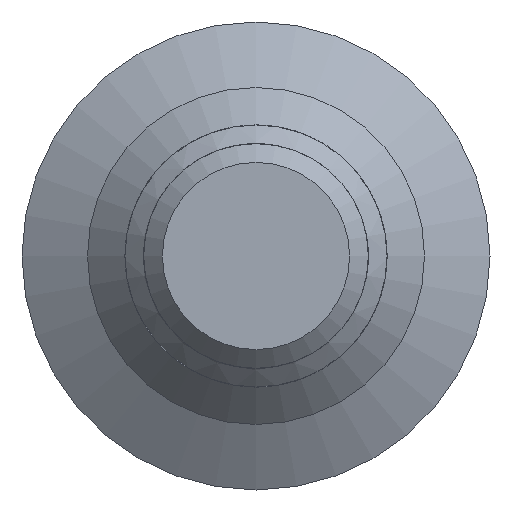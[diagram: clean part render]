
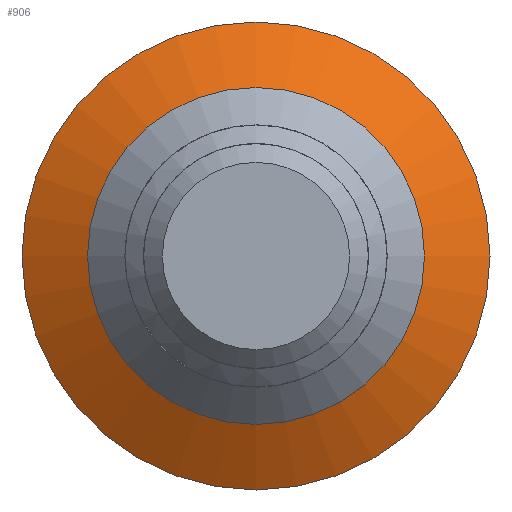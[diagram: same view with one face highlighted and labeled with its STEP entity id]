
A CAD part, front view. The second image highlights one B-rep face of the part: STEP entity #906.
In plain terms, the highlighted conical face has half-angle 60 degrees and reference radius 9 mm.
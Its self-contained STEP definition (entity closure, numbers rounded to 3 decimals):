
#839=CARTESIAN_POINT('',(35.54,37.28,17.43));
#840=VERTEX_POINT('',#839);
#847=CARTESIAN_POINT('',(35.54,37.28,35.43));
#848=VERTEX_POINT('',#847);
#849=CARTESIAN_POINT('',(35.54,37.28,26.43));
#850=DIRECTION('',(0.,-1.,0.));
#851=DIRECTION('',(0.,0.,-1.));
#852=AXIS2_PLACEMENT_3D('',#849,#850,#851);
#853=CIRCLE('',#852,9.);
#854=EDGE_CURVE('',#840,#848,#853,.T.);
#866=CARTESIAN_POINT('',(35.54,37.28,26.43));
#867=DIRECTION('',(0.,1.,0.));
#868=DIRECTION('',(0.,-0.,1.));
#869=AXIS2_PLACEMENT_3D('',#866,#867,#868);
#870=CONICAL_SURFACE('',#869,9.,60.);
#871=CARTESIAN_POINT('',(35.54,39.301,38.93));
#872=VERTEX_POINT('',#871);
#873=CARTESIAN_POINT('',(35.54,37.28,35.43));
#874=DIRECTION('',(0.,0.5,0.866));
#875=VECTOR('',#874,4.041);
#876=LINE('',#873,#875);
#877=EDGE_CURVE('',#848,#872,#876,.T.);
#878=ORIENTED_EDGE('',*,*,#877,.F.);
#879=ORIENTED_EDGE('',*,*,#854,.F.);
#880=CARTESIAN_POINT('',(35.54,37.28,26.43));
#881=DIRECTION('',(0.,-1.,0.));
#882=DIRECTION('',(0.,0.,-1.));
#883=AXIS2_PLACEMENT_3D('',#880,#881,#882);
#884=CIRCLE('',#883,9.);
#885=EDGE_CURVE('',#848,#840,#884,.T.);
#886=ORIENTED_EDGE('',*,*,#885,.F.);
#887=ORIENTED_EDGE('',*,*,#877,.T.);
#888=CARTESIAN_POINT('',(35.54,39.301,13.93));
#889=VERTEX_POINT('',#888);
#890=CARTESIAN_POINT('',(35.54,39.301,26.43));
#891=DIRECTION('',(0.,-1.,0.));
#892=DIRECTION('',(0.,0.,-1.));
#893=AXIS2_PLACEMENT_3D('',#890,#891,#892);
#894=CIRCLE('',#893,12.5);
#895=EDGE_CURVE('',#872,#889,#894,.T.);
#896=ORIENTED_EDGE('',*,*,#895,.T.);
#897=CARTESIAN_POINT('',(35.54,39.301,26.43));
#898=DIRECTION('',(0.,-1.,0.));
#899=DIRECTION('',(0.,0.,-1.));
#900=AXIS2_PLACEMENT_3D('',#897,#898,#899);
#901=CIRCLE('',#900,12.5);
#902=EDGE_CURVE('',#889,#872,#901,.T.);
#903=ORIENTED_EDGE('',*,*,#902,.T.);
#904=EDGE_LOOP('',(#878,#879,#886,#887,#896,#903));
#905=FACE_BOUND('',#904,.T.);
#906=ADVANCED_FACE('',(#905),#870,.T.);
